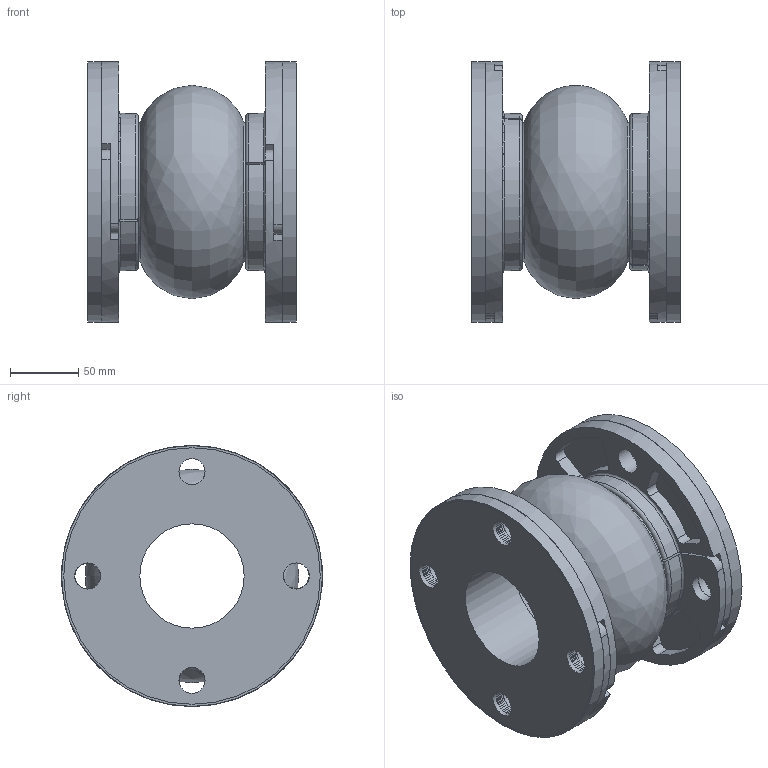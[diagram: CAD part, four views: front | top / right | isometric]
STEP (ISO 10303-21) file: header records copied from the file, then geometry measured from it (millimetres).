
FILE_DESCRIPTION((''),'2;1');
FILE_NAME('C:\2011_Work\Designs\Mercer\Stock Joints\450 Style\451\STEP\451 3x6 .stp','2013-05-15T14:25:29',('mquog'),(''),'Autodesk Inventor 2011','Autodesk Inventor 2011','');
FILE_SCHEMA(('AUTOMOTIVE_DESIGN { 1 0 10303 214 1 1 1 1 }'));
Length unit declared in the file: inch
Products named in the file (3): 451 3x6 ; Style451 3x6; 3DI450BUR150
Assembly tree (5 placements, depth 2):
  451 3x6 
    Style451 3x6
    3DI450BUR150  x4
Bounding box: 152.4 x 190.5 x 190.5 mm (x, y, z)
Volume: 1587809.4 mm3; surface area: 1616134.2 mm2
Topology: 18 solids, 18 shells, 342 faces, 864 edges, 574 vertices
Faces by surface type: cylinder 184, plane 100, torus 51, cone 4, bspline 3
Full cylindrical faces by diameter (mm): 19.05 x68, 76.2 x2, 82.55 x4, 88.9 x8, 90.932 x4, 92.964 x4, 94.996 x4, 97.028 x4, 100.203 x2, 107.95 x2, 187.325 x16, 190.5 x2
Entity records: 6246 total; most frequent: CARTESIAN_POINT 1162, DIRECTION 1093, ORIENTED_EDGE 686, EDGE_LOOP 534, AXIS2_PLACEMENT_3D 523, EDGE_CURVE 343, VERTEX_POINT 311, FACE_BOUND 309
